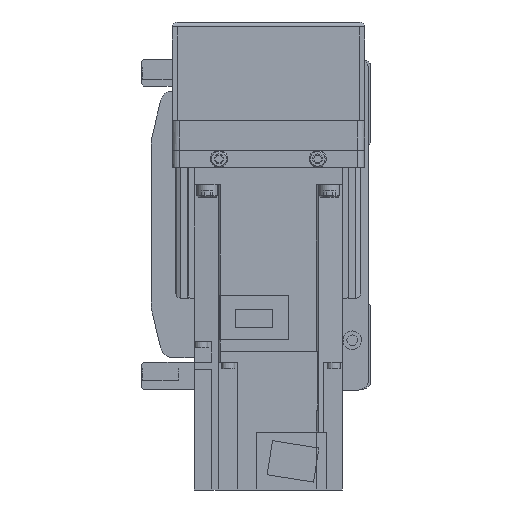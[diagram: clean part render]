
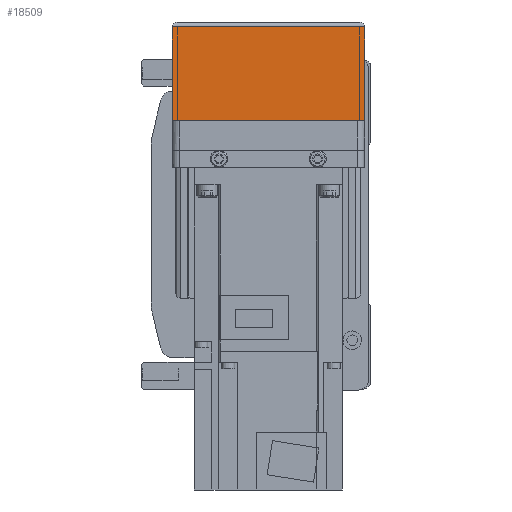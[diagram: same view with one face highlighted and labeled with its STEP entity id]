
A CAD part, left-side view. The second image highlights one B-rep face of the part: STEP entity #18509.
In plain terms, the highlighted planar face has unit normal (-1, 0, 0).
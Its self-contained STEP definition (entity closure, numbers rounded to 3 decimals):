
#2750=ORIENTED_EDGE('',*,*,#7443,.F.);
#2751=ORIENTED_EDGE('',*,*,#7444,.F.);
#2752=ORIENTED_EDGE('',*,*,#7445,.T.);
#2753=ORIENTED_EDGE('',*,*,#7446,.F.);
#7443=EDGE_CURVE('',#9888,#9879,#11801,.T.);
#7444=EDGE_CURVE('',#9905,#9888,#11802,.T.);
#7445=EDGE_CURVE('',#9905,#9906,#11803,.T.);
#7446=EDGE_CURVE('',#9879,#9906,#11804,.T.);
#9879=VERTEX_POINT('',#28398);
#9888=VERTEX_POINT('',#28416);
#9905=VERTEX_POINT('',#28464);
#9906=VERTEX_POINT('',#28466);
#11801=LINE('',#28462,#13471);
#11802=LINE('',#28463,#13472);
#11803=LINE('',#28465,#13473);
#11804=LINE('',#28467,#13474);
#13471=VECTOR('',#22777,1000.);
#13472=VECTOR('',#22778,1000.);
#13473=VECTOR('',#22779,1000.);
#13474=VECTOR('',#22780,1000.);
#14973=EDGE_LOOP('',(#2750,#2751,#2752,#2753));
#16443=FACE_BOUND('',#14973,.T.);
#17754=PLANE('',#19831);
#18509=ADVANCED_FACE('',(#16443),#17754,.F.);
#19831=AXIS2_PLACEMENT_3D('',#28461,#22775,#22776);
#22775=DIRECTION('',(1.,0.,0.));
#22776=DIRECTION('',(0.,0.,-1.));
#22777=DIRECTION('',(0.,-1.,0.));
#22778=DIRECTION('',(0.,0.,1.));
#22779=DIRECTION('',(0.,-1.,0.));
#22780=DIRECTION('',(0.,0.,-1.));
#28398=CARTESIAN_POINT('',(-158.,-39.,-12.1));
#28416=CARTESIAN_POINT('',(-158.,39.,-12.1));
#28461=CARTESIAN_POINT('',(-158.,36.,7.));
#28462=CARTESIAN_POINT('',(-158.,50.,-12.1));
#28463=CARTESIAN_POINT('',(-158.,39.,-50.));
#28464=CARTESIAN_POINT('',(-158.,39.,-50.));
#28465=CARTESIAN_POINT('',(-158.,40.,-50.));
#28466=CARTESIAN_POINT('',(-158.,-39.,-50.));
#28467=CARTESIAN_POINT('',(-158.,-39.,-12.1));
